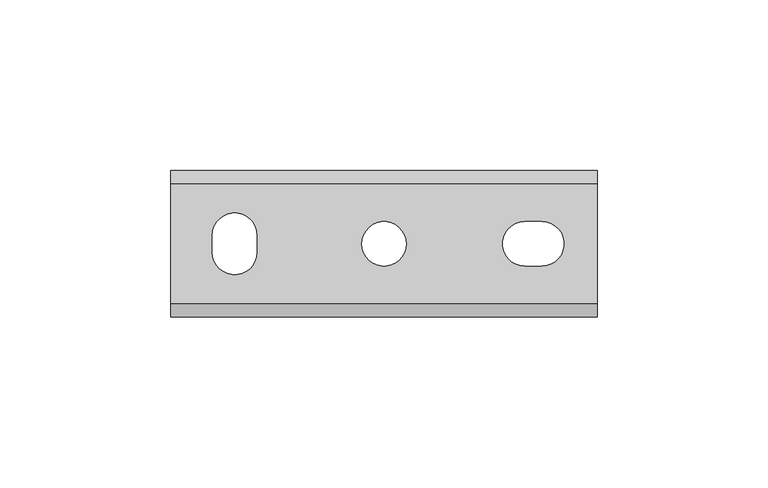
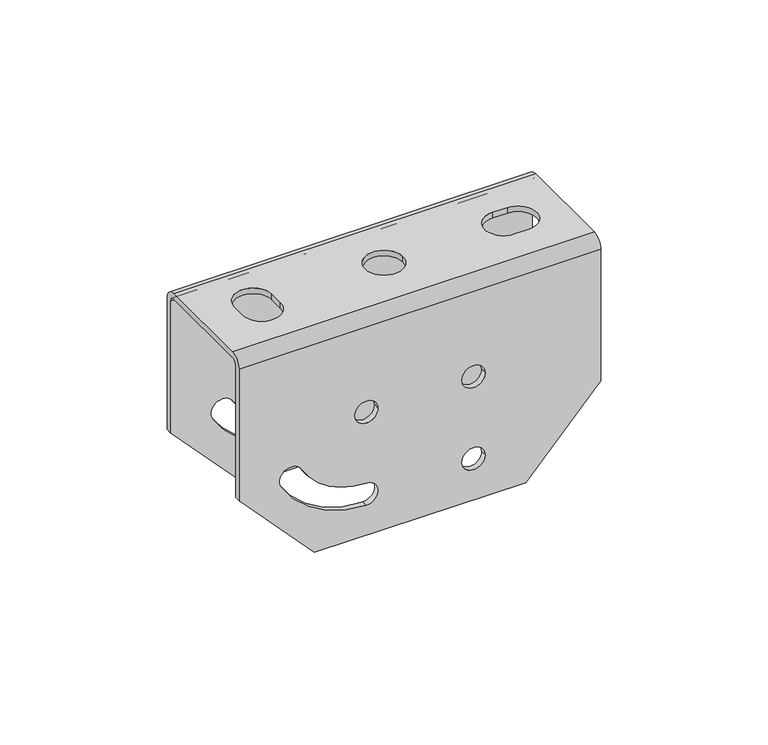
"""IFC4 building model written with IfcOpenShell, lengths in millimetres: proxy geometry, КМ Профиль_Универсальная потолочна скоба UPD : UPD HD."""

import ifcopenshell
import ifcopenshell.guid

model = None  # the IFC model being written
_history = None  # IfcOwnerHistory: only IFC2X3 demands one
_inside = {}  # id of a spatial element -> (the spatial element, [elements in it])
_under = {}  # id of a project, library or spatial element -> (it, [spatial elements below it])
_declared = {}  # id of a project -> (the project, [libraries it declares])
_typed = {}  # id of a type object -> (the type object, [elements of that type])
_made_of = {}  # id of a material, layer set ... -> (it, [elements and type objects made of it])


def new_model(schema):
    """Start an empty IFC model of exactly this schema.

    Asked for "IFC4X3", IfcOpenShell would pick the latest addendum, in which some entities
    have other attributes; the version numbers below select the first issue.
    IFC2X3 requires an IfcOwnerHistory on every rooted entity: one is made here for all.
    """
    global model, _history
    if schema == "IFC4X3":
        model = ifcopenshell.file(schema_version=(4, 3, 0, 0))
    else:
        model = ifcopenshell.file(schema=schema)
    _inside.clear()
    _under.clear()
    _declared.clear()
    _typed.clear()
    _made_of.clear()
    _history = None
    if model.schema == "IFC2X3":
        org = make("IfcOrganization", Name="unknown")
        user = make(
            "IfcPersonAndOrganization",
            ThePerson=make("IfcPerson", FamilyName="unknown"),
            TheOrganization=org,
        )
        app = make(
            "IfcApplication",
            ApplicationDeveloper=org,
            Version="unknown",
            ApplicationFullName="unknown",
            ApplicationIdentifier="unknown",
        )
        _history = make(
            "IfcOwnerHistory",
            OwningUser=user,
            OwningApplication=app,
            ChangeAction="ADDED",
            CreationDate=0,
        )
    return model


def make(cls, **values):
    """One entity of the class cls with the attributes given. An attribute that is None is left unset."""
    return model.create_entity(
        cls, **{name: value for name, value in values.items() if value is not None}
    )


def rooted(cls, **values):
    """An entity with a GlobalId (a new one), such as an element, a storey or a relation."""
    return make(cls, GlobalId=ifcopenshell.guid.new(), OwnerHistory=_history, **values)


def si_unit(unit_type, name, prefix=None):
    """IfcSIUnit, for example si_unit("LENGTHUNIT", "METRE", prefix="MILLI")."""
    return make("IfcSIUnit", UnitType=unit_type, Prefix=prefix, Name=name)


def assignment(units):
    """IfcUnitAssignment: the units of a project."""
    return None if units is None else make("IfcUnitAssignment", Units=units)


def point(xyz):
    """IfcCartesianPoint."""
    return None if xyz is None else make("IfcCartesianPoint", Coordinates=xyz)


def direction(xyz):
    """IfcDirection."""
    return None if xyz is None else make("IfcDirection", DirectionRatios=xyz)


def frame(location, z_axis=None, x_axis=None):
    """IfcAxis2Placement3D, a coordinate frame: its origin and axes. An axis left out is left unset."""
    return make(
        "IfcAxis2Placement3D",
        Location=point(location),
        Axis=direction(z_axis),
        RefDirection=direction(x_axis),
    )


def origin():
    """The frame at (0, 0, 0) with its axes left unset."""
    return frame((0.0, 0.0, 0.0))


def place(relative_to, where):
    """IfcLocalPlacement: puts the frame where relative to a parent placement (None: the world)."""
    return make(
        "IfcLocalPlacement", PlacementRelTo=relative_to, RelativePlacement=where
    )


def context(
    kind, dimensions, precision=None, world=None, true_north=None, identifier=None
):
    """IfcGeometricRepresentationContext, for example the 3D "Model" context."""
    return make(
        "IfcGeometricRepresentationContext",
        ContextIdentifier=identifier,
        ContextType=kind,
        CoordinateSpaceDimension=dimensions,
        Precision=precision,
        WorldCoordinateSystem=world,
        TrueNorth=true_north,
    )


def project(units=None, contexts=None):
    """IfcProject with its units and contexts."""
    return rooted(
        "IfcProject",
        Name="project",
        RepresentationContexts=contexts,
        UnitsInContext=assignment(units),
    )


def spatial(cls, under=None, at=None, **own):
    """A site, building, storey or space (cls), placed at a placement, below another one or the project."""
    s = rooted(cls, ObjectPlacement=at, **own)
    if under is not None:
        _under.setdefault(under.id(), (under, []))[1].append(s)
    return s


def polyline(points):
    """IfcPolyline through the points."""
    return make("IfcPolyline", Points=[point(p) for p in points])


def circle_curve(where, radius):
    """IfcCircle in the frame where."""
    return make("IfcCircle", Position=where, Radius=radius)


def shape(context_of_items, identifier, shape_type, items):
    """IfcShapeRepresentation: the items that make up one representation, for example the "Body"."""
    return make(
        "IfcShapeRepresentation",
        ContextOfItems=context_of_items,
        RepresentationIdentifier=identifier,
        RepresentationType=shape_type,
        Items=items,
    )


def source(mapping_origin, context_of_items, identifier, shape_type, items):
    """IfcRepresentationMap: a shape defined once, which mapped items show again and again."""
    return make(
        "IfcRepresentationMap",
        MappingOrigin=mapping_origin,
        MappedRepresentation=shape(context_of_items, identifier, shape_type, items),
    )


def transform(
    local_origin,
    x_axis=None,
    y_axis=None,
    z_axis=None,
    scale=None,
    scale2=None,
    scale3=None,
    uniform=True,
):
    """IfcCartesianTransformationOperator3D, or its non-uniform kind. x_axis, y_axis, z_axis: its Axis1, 2, 3."""
    if uniform:
        return make(
            "IfcCartesianTransformationOperator3D",
            Axis1=direction(x_axis),
            Axis2=direction(y_axis),
            LocalOrigin=point(local_origin),
            Scale=scale,
            Axis3=direction(z_axis),
        )
    return make(
        "IfcCartesianTransformationOperator3DnonUniform",
        Axis1=direction(x_axis),
        Axis2=direction(y_axis),
        LocalOrigin=point(local_origin),
        Scale=scale,
        Axis3=direction(z_axis),
        Scale2=scale2,
        Scale3=scale3,
    )


def mapped(mapping_source, mapping_target):
    """IfcMappedItem: shows the shape of a source again, moved by a transform."""
    return make(
        "IfcMappedItem", MappingSource=mapping_source, MappingTarget=mapping_target
    )


def made_of(thing, what):
    """Note that an element or type object is made of a material, layer set ...; save() writes the relation."""
    if what is not None:
        _made_of.setdefault(what.id(), (what, []))[1].append(thing)
    return thing


def element(
    cls,
    number,
    at=None,
    inside=None,
    cuts=None,
    type_object=None,
    material=None,
    context=None,
    identifier="Body",
    shape_type=None,
    held_by="IfcProductDefinitionShape",
    body=None,
    shapes=None,
    **own,
):
    """One element of the class cls, such as IfcWall. Its Tag is "e" and its number.

    at: its placement. inside: the storey or other place that contains it. cuts: it is an
    opening in that element (IfcRelVoidsElement). A single representation is given by context,
    identifier, shape_type and body (its items); several are given by shapes. held_by: the class
    of the entity that holds the representations. save() writes the other relations.
    """
    e = rooted(cls, Tag="e%d" % number, ObjectPlacement=at, **own)
    if body is not None:
        shapes = [shape(context, identifier, shape_type, body)]
    if shapes is not None:
        e.Representation = make(held_by, Representations=shapes)
    if inside is not None:
        _inside.setdefault(inside.id(), (inside, []))[1].append(e)
    if cuts is not None:
        rooted(
            "IfcRelVoidsElement", RelatingBuildingElement=cuts, RelatedOpeningElement=e
        )
    if type_object is not None:
        _typed.setdefault(type_object.id(), (type_object, []))[1].append(e)
    return made_of(e, material)


def aggregate(whole, parts):
    """IfcRelAggregates: a whole, such as a stair, and the parts it consists of."""
    return rooted("IfcRelAggregates", RelatingObject=whole, RelatedObjects=parts)


def save(model, path):
    """Write the relations noted so far, then the file.

    IfcRelAggregates (storeys below a building ...), IfcRelContainedInSpatialStructure (elements
    in a storey), IfcRelDefinesByType, IfcRelAssociatesMaterial and IfcRelDeclares: one each for
    every whole, place, type object, material and project.
    """
    for whole, parts in _under.values():
        aggregate(whole, parts)
    for where, things in _inside.values():
        rooted(
            "IfcRelContainedInSpatialStructure",
            RelatedElements=things,
            RelatingStructure=where,
        )
    for kind, things in _typed.values():
        rooted("IfcRelDefinesByType", RelatedObjects=things, RelatingType=kind)
    for what, things in _made_of.values():
        rooted("IfcRelAssociatesMaterial", RelatedObjects=things, RelatingMaterial=what)
    for by, libraries in _declared.values():
        rooted("IfcRelDeclares", RelatingContext=by, RelatedDefinitions=libraries)
    model.write(path)


def plane_surface(at):
    """IfcPlane: the flat surface through the origin of the frame at, square to its z axis."""
    return make("IfcPlane", Position=at)


def cylinder_surface(at, radius):
    """IfcCylindricalSurface: all points at the distance radius from the z axis of the frame at."""
    return make("IfcCylindricalSurface", Position=at, Radius=radius)


def revolved_surface(curve, axis_point, axis_direction):
    """IfcSurfaceOfRevolution: the curve turned about the line through axis_point along axis_direction."""
    return make(
        "IfcSurfaceOfRevolution",
        SweptCurve=make("IfcArbitraryOpenProfileDef", ProfileType="CURVE", Curve=curve),
        AxisPosition=make("IfcAxis1Placement", Location=point(axis_point), Axis=direction(axis_direction)),
    )


def advanced_brep(points, edges, surfaces, faces):
    """IfcAdvancedBrep: a solid bounded by faces that lie on surfaces and meet in shared edges.

    An edge is (start, end): straight between two places in points (the first is 0);
    or (start, end, curve); or (start, end, curve, False) where it runs against its curve.
    A face is (place in surfaces, loops), or (place, loops, False) where it looks against
    its surface's normal. A loop lists edges by number (the first is 1), with a minus sign
    where the edge is run from its end to its start. The first loop is the outer one.
    """
    corners = [point(p) for p in points]
    vertices = [make("IfcVertexPoint", VertexGeometry=c) for c in corners]
    made = []
    for start, end, *more in edges:
        made.append(
            make(
                "IfcEdgeCurve",
                EdgeStart=vertices[start],
                EdgeEnd=vertices[end],
                EdgeGeometry=more[0] if more else make("IfcPolyline", Points=[corners[start], corners[end]]),
                SameSense=more[1] if len(more) > 1 else True,
            )
        )
    hull = []
    for where, loops, *sense in faces:
        bounds = []
        for j, loop in enumerate(loops):
            ring = [make("IfcOrientedEdge", EdgeElement=made[abs(k) - 1], Orientation=k > 0) for k in loop]
            bounds.append(
                make(
                    "IfcFaceOuterBound" if j == 0 else "IfcFaceBound",
                    Bound=make("IfcEdgeLoop", EdgeList=ring),
                    Orientation=True,
                )
            )
        hull.append(make("IfcAdvancedFace", Bounds=bounds, FaceSurface=surfaces[where], SameSense=sense[0] if sense else True))
    return make("IfcAdvancedBrep", Outer=make("IfcClosedShell", CfsFaces=hull))


def generic_models_a440815e(model_context):
    return source(origin(), model_context, "Body", "AdvancedBrep", [
        advanced_brep(
        [(-62.5, -17.5, 0.0), (-62.5, 17.5, 0.0), (-62.5, 21.5, -4.0), (-62.5, 21.5, -52.0), (-62.5, 19.5, -52.0), (-62.5, 19.5, -4.0), (-62.5, 17.5, -2.0), (-62.5, -17.5, -2.0), (-62.5, -19.5, -4.0), (-62.5, -19.5, -52.0), (-62.5, -21.5, -52.0), (-62.5, -21.5, -4.0), (62.5, 17.5, 0.0), (62.5, -17.5, 0.0), (62.5, -21.5, -4.0), (62.5, -21.5, -52.0), (62.5, -19.5, -52.0), (62.5, -19.5, -4.0), (62.5, -17.5, -2.0), (62.5, 17.5, -2.0), (62.5, 19.5, -4.0), (62.5, 19.5, -52.0), (62.5, 21.5, -52.0), (62.5, 21.5, -4.0), (6.5, 0.0, 0.0), (-6.5, 0.0, 0.0), (-50.25, -2.5, 0.0), (-50.25, 2.5, 0.0), (-37.25, 2.5, 0.0), (-37.25, -2.5, 0.0), (41.25, 6.5, 0.0), (46.25, 6.5, 0.0), (46.25, -6.5, 0.0), (41.25, -6.5, 0.0), (36.5, -19.5, -80.0), (-36.5, -19.5, -80.0), (14.5, -19.5, -35.0), (22.5, -19.5, -35.0), (14.5, -19.5, -65.0), (22.5, -19.5, -65.0), (-22.5, -19.5, -35.0), (-14.5, -19.5, -35.0), (-18.5, -19.5, -69.0), (-18.5, -19.5, -61.0), (-41.0166605, -19.5, -48.0), (-47.9448637, -19.5, -52.0), (36.5, -21.5, -80.0), (-36.5, -21.5, -80.0), (22.5, -21.5, -35.0), (14.5, -21.5, -35.0), (22.5, -21.5, -65.0), (14.5, -21.5, -65.0), (-14.5, -21.5, -35.0), (-22.5, -21.5, -35.0), (-18.5, -21.5, -61.0), (-18.5, -21.5, -69.0), (-47.9448637, -21.5, -52.0), (-41.0166605, -21.5, -48.0), (-6.5, 0.0, -2.0), (6.5, 0.0, -2.0), (-50.25, 2.5, -2.0), (-50.25, -2.5, -2.0), (-37.25, -2.5, -2.0), (-37.25, 2.5, -2.0), (46.25, 6.5, -2.0), (41.25, 6.5, -2.0), (41.25, -6.5, -2.0), (46.25, -6.5, -2.0), (36.5, 21.5, -80.0), (-36.5, 21.5, -80.0), (14.5, 21.5, -35.0), (22.5, 21.5, -35.0), (14.5, 21.5, -65.0), (22.5, 21.5, -65.0), (-22.5, 21.5, -35.0), (-14.5, 21.5, -35.0), (-18.5, 21.5, -69.0), (-18.5, 21.5, -61.0), (-41.0166605, 21.5, -48.0), (-47.9448637, 21.5, -52.0), (36.5, 19.5, -80.0), (-36.5, 19.5, -80.0), (22.5, 19.5, -35.0), (14.5, 19.5, -35.0), (22.5, 19.5, -65.0), (14.5, 19.5, -65.0), (-14.5, 19.5, -35.0), (-22.5, 19.5, -35.0), (-18.5, 19.5, -61.0), (-18.5, 19.5, -69.0), (-47.9448637, 19.5, -52.0), (-41.0166605, 19.5, -48.0)],
        [
            (0, 1),
            (1, 2, circle_curve(frame((-62.5, 17.5, -4.0), z_axis=(-1.0, 0.0, 0.0), x_axis=(0.0, 1.0, 0.0)), 4.0)),
            (2, 3),
            (3, 4),
            (4, 5),
            (5, 6, circle_curve(frame((-62.5, 17.5, -4.0), z_axis=(1.0, 0.0, 0.0), x_axis=(0.0, 1.0, 0.0)), 2.0)),
            (6, 7),
            (7, 8, circle_curve(frame((-62.5, -17.5, -4.0), z_axis=(1.0, 0.0, 0.0), x_axis=(0.0, 1.0, 0.0)), 2.0)),
            (8, 9),
            (9, 10),
            (10, 11),
            (11, 0, circle_curve(frame((-62.5, -17.5, -4.0), z_axis=(-1.0, 0.0, 0.0), x_axis=(0.0, 1.0, 0.0)), 4.0)),
            (12, 13),
            (13, 14, circle_curve(frame((62.5, -17.5, -4.0), z_axis=(1.0, 0.0, 0.0), x_axis=(0.0, 1.0, 0.0)), 4.0)),
            (14, 15),
            (15, 16),
            (16, 17),
            (17, 18, circle_curve(frame((62.5, -17.5, -4.0), z_axis=(-1.0, 0.0, 0.0), x_axis=(0.0, 1.0, 0.0)), 2.0)),
            (18, 19),
            (19, 20, circle_curve(frame((62.5, 17.5, -4.0), z_axis=(-1.0, 0.0, 0.0), x_axis=(0.0, 1.0, 0.0)), 2.0)),
            (20, 21),
            (21, 22),
            (22, 23),
            (23, 12, circle_curve(frame((62.5, 17.5, -4.0), z_axis=(1.0, 0.0, 0.0), x_axis=(0.0, 1.0, 0.0)), 4.0)),
            (0, 13),
            (12, 1),
            (24, 25, circle_curve(frame((0.0, 0.0, 0.0), z_axis=(0.0, 0.0, -1.0), x_axis=(1.0, 0.0, 0.0)), 6.5)),
            (25, 24, circle_curve(frame((0.0, 0.0, 0.0), z_axis=(0.0, 0.0, -1.0), x_axis=(1.0, 0.0, 0.0)), 6.5)),
            (26, 27),
            (27, 28, circle_curve(frame((-43.75, 2.5, 0.0), z_axis=(0.0, 0.0, -1.0), x_axis=(0.0, 1.0, 0.0)), 6.5)),
            (28, 29),
            (29, 26, circle_curve(frame((-43.75, -2.5, 0.0), z_axis=(0.0, 0.0, -1.0), x_axis=(0.0, 1.0, 0.0)), 6.5)),
            (30, 31),
            (31, 32, circle_curve(frame((46.25, 0.0, 0.0), z_axis=(0.0, 0.0, -1.0), x_axis=(1.0, 0.0, 0.0)), 6.5)),
            (32, 33),
            (33, 30, circle_curve(frame((41.25, 0.0, 0.0), z_axis=(0.0, 0.0, -1.0), x_axis=(1.0, 0.0, 0.0)), 6.5)),
            (8, 17),
            (16, 34),
            (34, 35),
            (35, 9),
            (36, 37, circle_curve(frame((18.5, -19.5, -35.0), z_axis=(0.0, -1.0, 0.0), x_axis=(1.0, 0.0, 0.0)), 4.0)),
            (37, 36, circle_curve(frame((18.5, -19.5, -35.0), z_axis=(0.0, -1.0, 0.0), x_axis=(1.0, 0.0, 0.0)), 4.0)),
            (38, 39, circle_curve(frame((18.5, -19.5, -65.0), z_axis=(0.0, -1.0, 0.0), x_axis=(1.0, 0.0, 0.0)), 4.0)),
            (39, 38, circle_curve(frame((18.5, -19.5, -65.0), z_axis=(0.0, -1.0, 0.0), x_axis=(1.0, 0.0, 0.0)), 4.0)),
            (40, 41, circle_curve(frame((-18.5, -19.5, -35.0), z_axis=(0.0, -1.0, 0.0), x_axis=(1.0, 0.0, 0.0)), 4.0)),
            (41, 40, circle_curve(frame((-18.5, -19.5, -35.0), z_axis=(0.0, -1.0, 0.0), x_axis=(1.0, 0.0, 0.0)), 4.0)),
            (42, 43, circle_curve(frame((-18.5, -19.5, -65.0), z_axis=(0.0, -1.0, 0.0), x_axis=(1.0, 0.0, 0.0)), 4.0)),
            (43, 44, circle_curve(frame((-18.5, -19.5, -35.0), z_axis=(0.0, 1.0, 0.0), x_axis=(1.0, 0.0, 0.0)), 26.0)),
            (44, 45, circle_curve(frame((-44.4807621, -19.5, -50.0), z_axis=(0.0, -1.0, 0.0), x_axis=(1.0, 0.0, 0.0)), 4.0)),
            (45, 42, circle_curve(frame((-18.5, -19.5, -35.0), z_axis=(0.0, -1.0, 0.0), x_axis=(1.0, 0.0, 0.0)), 34.0)),
            (34, 46),
            (46, 47),
            (47, 35),
            (14, 11),
            (10, 47),
            (46, 15),
            (48, 49, circle_curve(frame((18.5, -21.5, -35.0), z_axis=(0.0, 1.0, 0.0), x_axis=(1.0, 0.0, 0.0)), 4.0)),
            (49, 48, circle_curve(frame((18.5, -21.5, -35.0), z_axis=(0.0, 1.0, 0.0), x_axis=(1.0, 0.0, 0.0)), 4.0)),
            (50, 51, circle_curve(frame((18.5, -21.5, -65.0), z_axis=(0.0, 1.0, 0.0), x_axis=(1.0, 0.0, 0.0)), 4.0)),
            (51, 50, circle_curve(frame((18.5, -21.5, -65.0), z_axis=(0.0, 1.0, 0.0), x_axis=(1.0, 0.0, 0.0)), 4.0)),
            (52, 53, circle_curve(frame((-18.5, -21.5, -35.0), z_axis=(0.0, 1.0, 0.0), x_axis=(1.0, 0.0, 0.0)), 4.0)),
            (53, 52, circle_curve(frame((-18.5, -21.5, -35.0), z_axis=(0.0, 1.0, 0.0), x_axis=(1.0, 0.0, 0.0)), 4.0)),
            (54, 55, circle_curve(frame((-18.5, -21.5, -65.0), z_axis=(0.0, 1.0, 0.0), x_axis=(1.0, 0.0, 0.0)), 4.0)),
            (55, 56, circle_curve(frame((-18.5, -21.5, -35.0), z_axis=(0.0, 1.0, 0.0), x_axis=(1.0, 0.0, 0.0)), 34.0)),
            (56, 57, circle_curve(frame((-44.4807621, -21.5, -50.0), z_axis=(0.0, 1.0, 0.0), x_axis=(1.0, 0.0, 0.0)), 4.0)),
            (57, 54, circle_curve(frame((-18.5, -21.5, -35.0), z_axis=(0.0, -1.0, 0.0), x_axis=(1.0, 0.0, 0.0)), 26.0)),
            (6, 19),
            (18, 7),
            (58, 59, circle_curve(frame((0.0, 0.0, -2.0), z_axis=(0.0, 0.0, 1.0), x_axis=(1.0, 0.0, 0.0)), 6.5)),
            (59, 58, circle_curve(frame((0.0, 0.0, -2.0), z_axis=(0.0, 0.0, 1.0), x_axis=(1.0, 0.0, 0.0)), 6.5)),
            (60, 61),
            (61, 62, circle_curve(frame((-43.75, -2.5, -2.0), z_axis=(0.0, 0.0, 1.0), x_axis=(0.0, 1.0, 0.0)), 6.5)),
            (62, 63),
            (63, 60, circle_curve(frame((-43.75, 2.5, -2.0), z_axis=(0.0, 0.0, 1.0), x_axis=(0.0, 1.0, 0.0)), 6.5)),
            (64, 65),
            (65, 66, circle_curve(frame((41.25, 0.0, -2.0), z_axis=(0.0, 0.0, 1.0), x_axis=(1.0, 0.0, 0.0)), 6.5)),
            (66, 67),
            (67, 64, circle_curve(frame((46.25, 0.0, -2.0), z_axis=(0.0, 0.0, 1.0), x_axis=(1.0, 0.0, 0.0)), 6.5)),
            (2, 23),
            (22, 68),
            (68, 69),
            (69, 3),
            (70, 71, circle_curve(frame((18.5, 21.5, -35.0), z_axis=(0.0, -1.0, 0.0), x_axis=(1.0, 0.0, 0.0)), 4.0)),
            (71, 70, circle_curve(frame((18.5, 21.5, -35.0), z_axis=(0.0, -1.0, 0.0), x_axis=(1.0, 0.0, 0.0)), 4.0)),
            (72, 73, circle_curve(frame((18.5, 21.5, -65.0), z_axis=(0.0, -1.0, 0.0), x_axis=(1.0, 0.0, 0.0)), 4.0)),
            (73, 72, circle_curve(frame((18.5, 21.5, -65.0), z_axis=(0.0, -1.0, 0.0), x_axis=(1.0, 0.0, 0.0)), 4.0)),
            (74, 75, circle_curve(frame((-18.5, 21.5, -35.0), z_axis=(0.0, -1.0, 0.0), x_axis=(1.0, 0.0, 0.0)), 4.0)),
            (75, 74, circle_curve(frame((-18.5, 21.5, -35.0), z_axis=(0.0, -1.0, 0.0), x_axis=(1.0, 0.0, 0.0)), 4.0)),
            (76, 77, circle_curve(frame((-18.5, 21.5, -65.0), z_axis=(0.0, -1.0, 0.0), x_axis=(1.0, 0.0, 0.0)), 4.0)),
            (77, 78, circle_curve(frame((-18.5, 21.5, -35.0), z_axis=(0.0, 1.0, 0.0), x_axis=(1.0, 0.0, 0.0)), 26.0)),
            (78, 79, circle_curve(frame((-44.4807621, 21.5, -50.0), z_axis=(0.0, -1.0, 0.0), x_axis=(1.0, 0.0, 0.0)), 4.0)),
            (79, 76, circle_curve(frame((-18.5, 21.5, -35.0), z_axis=(0.0, -1.0, 0.0), x_axis=(1.0, 0.0, 0.0)), 34.0)),
            (68, 80),
            (80, 81),
            (81, 69),
            (20, 5),
            (4, 81),
            (80, 21),
            (82, 83, circle_curve(frame((18.5, 19.5, -35.0), z_axis=(0.0, 1.0, 0.0), x_axis=(1.0, 0.0, 0.0)), 4.0)),
            (83, 82, circle_curve(frame((18.5, 19.5, -35.0), z_axis=(0.0, 1.0, 0.0), x_axis=(1.0, 0.0, 0.0)), 4.0)),
            (84, 85, circle_curve(frame((18.5, 19.5, -65.0), z_axis=(0.0, 1.0, 0.0), x_axis=(1.0, 0.0, 0.0)), 4.0)),
            (85, 84, circle_curve(frame((18.5, 19.5, -65.0), z_axis=(0.0, 1.0, 0.0), x_axis=(1.0, 0.0, 0.0)), 4.0)),
            (86, 87, circle_curve(frame((-18.5, 19.5, -35.0), z_axis=(0.0, 1.0, 0.0), x_axis=(1.0, 0.0, 0.0)), 4.0)),
            (87, 86, circle_curve(frame((-18.5, 19.5, -35.0), z_axis=(0.0, 1.0, 0.0), x_axis=(1.0, 0.0, 0.0)), 4.0)),
            (88, 89, circle_curve(frame((-18.5, 19.5, -65.0), z_axis=(0.0, 1.0, 0.0), x_axis=(1.0, 0.0, 0.0)), 4.0)),
            (89, 90, circle_curve(frame((-18.5, 19.5, -35.0), z_axis=(0.0, 1.0, 0.0), x_axis=(1.0, 0.0, 0.0)), 34.0)),
            (90, 91, circle_curve(frame((-44.4807621, 19.5, -50.0), z_axis=(0.0, 1.0, 0.0), x_axis=(1.0, 0.0, 0.0)), 4.0)),
            (91, 88, circle_curve(frame((-18.5, 19.5, -35.0), z_axis=(0.0, -1.0, 0.0), x_axis=(1.0, 0.0, 0.0)), 26.0)),
            (24, 59),
            (58, 25),
            (26, 61),
            (60, 27),
            (29, 62),
            (28, 63),
            (30, 65),
            (64, 31),
            (33, 66),
            (32, 67),
            (36, 49),
            (48, 37),
            (70, 83),
            (82, 71),
            (38, 51),
            (50, 39),
            (72, 85),
            (84, 73),
            (40, 53),
            (52, 41),
            (74, 87),
            (86, 75),
            (42, 55),
            (54, 43),
            (76, 89),
            (88, 77),
            (57, 44),
            (91, 78),
            (56, 45),
            (90, 79),
        ],
        [
            plane_surface(frame((-62.5, 0.0, 0.0), z_axis=(-1.0, 0.0, 0.0), x_axis=(0.0, 0.0, 1.0))),
            plane_surface(frame((62.5, 0.0, 0.0), z_axis=(1.0, 0.0, 0.0), x_axis=(0.0, 0.0, 1.0))),
            plane_surface(frame((-62.5, -17.5, 0.0), z_axis=(0.0, 0.0, 1.0), x_axis=(1.0, 0.0, 0.0))),
            plane_surface(frame((-62.5, -19.5, -4.0), z_axis=(0.0, 1.0, 0.0), x_axis=(1.0, 0.0, 0.0))),
            plane_surface(frame((-62.5, -19.5, -80.0), z_axis=(0.0, 0.0, -1.0), x_axis=(1.0, 0.0, 0.0))),
            plane_surface(frame((-62.5, -21.5, -80.0), z_axis=(0.0, -1.0, 0.0), x_axis=(1.0, 0.0, 0.0))),
            plane_surface(frame((-62.5, 17.5, -2.0), z_axis=(0.0, 0.0, -1.0), x_axis=(1.0, 0.0, 0.0))),
            plane_surface(frame((-62.5, 21.5, -4.0), z_axis=(0.0, 1.0, 0.0), x_axis=(1.0, 0.0, 0.0))),
            plane_surface(frame((-62.5, 21.5, -80.0), z_axis=(0.0, 0.0, -1.0), x_axis=(1.0, 0.0, 0.0))),
            plane_surface(frame((-62.5, 19.5, -80.0), z_axis=(0.0, -1.0, 0.0), x_axis=(1.0, 0.0, 0.0))),
            revolved_surface(polyline([(62.5, 19.5, -4.0), (-62.5, 19.5, -4.0)]), (-62.5, 17.5, -4.0), (1.0, 0.0, 0.0)),
            revolved_surface(polyline([(62.5, -15.5, -4.0), (-62.5, -15.5, -4.0)]), (-62.5, -17.5, -4.0), (1.0, 0.0, 0.0)),
            cylinder_surface(frame((-62.5, -17.5, -4.0), z_axis=(-1.0, 0.0, 0.0), x_axis=(0.0, 1.0, 0.0)), 4.0),
            cylinder_surface(frame((-62.5, 17.5, -4.0), z_axis=(-1.0, 0.0, 0.0), x_axis=(0.0, 1.0, 0.0)), 4.0),
            revolved_surface(polyline([(6.5, 0.0, 0.0), (6.5, 0.0, -2.0)]), (0.0, 0.0, -2.0), (0.0, 0.0, 1.0)),
            plane_surface(frame((-36.5, -21.5, -80.0), z_axis=(-0.7327934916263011, 0.0, -0.6804510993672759), x_axis=(0.0, 1.0, 0.0))),
            plane_surface(frame((62.5, -21.5, -52.0), z_axis=(0.7327934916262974, 0.0, -0.6804510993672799), x_axis=(0.0, 1.0, 0.0))),
            plane_surface(frame((-50.25, 2.5, 0.0), z_axis=(1.0, 0.0, 0.0), x_axis=(0.0, 0.0, -1.0))),
            revolved_surface(polyline([(-43.75, 4.0, 0.0), (-43.75, 4.0, -2.0)]), (-43.75, -2.5, -2.0), (0.0, 0.0, 1.0)),
            plane_surface(frame((-37.25, -2.5, 0.0), z_axis=(-1.0, 0.0, 0.0), x_axis=(0.0, 0.0, -1.0))),
            revolved_surface(polyline([(-43.75, 9.0, 0.0), (-43.75, 9.0, -2.0)]), (-43.75, 2.5, -2.0), (0.0, 0.0, 1.0)),
            plane_surface(frame((46.25, 6.5, 0.0), z_axis=(0.0, -1.0, 0.0), x_axis=(0.0, 0.0, -1.0))),
            revolved_surface(polyline([(47.75, 0.0, 0.0), (47.75, 0.0, -2.0)]), (41.25, 0.0, -2.0), (0.0, 0.0, 1.0)),
            plane_surface(frame((41.25, -6.5, 0.0), z_axis=(0.0, 1.0, 0.0), x_axis=(0.0, 0.0, -1.0))),
            revolved_surface(polyline([(52.75, 0.0, 0.0), (52.75, 0.0, -2.0)]), (46.25, 0.0, -2.0), (0.0, 0.0, 1.0)),
            revolved_surface(polyline([(22.5, -21.5, -35.0), (22.5, -19.5, -35.0)]), (18.5, 21.5, -35.0), (0.0, -1.0, 0.0)),
            revolved_surface(polyline([(22.5, 19.5, -35.0), (22.5, 21.5, -35.0)]), (18.5, 21.5, -35.0), (0.0, -1.0, 0.0)),
            revolved_surface(polyline([(22.5, -21.5, -65.0), (22.5, -19.5, -65.0)]), (18.5, 21.5, -65.0), (0.0, -1.0, 0.0)),
            revolved_surface(polyline([(22.5, 19.5, -65.0), (22.5, 21.5, -65.0)]), (18.5, 21.5, -65.0), (0.0, -1.0, 0.0)),
            revolved_surface(polyline([(-14.5, -21.5, -35.0), (-14.5, -19.5, -35.0)]), (-18.5, 21.5, -35.0), (0.0, -1.0, 0.0)),
            revolved_surface(polyline([(-14.5, 19.5, -35.0), (-14.5, 21.5, -35.0)]), (-18.5, 21.5, -35.0), (0.0, -1.0, 0.0)),
            revolved_surface(polyline([(-14.5, -21.5, -65.0), (-14.5, -19.5, -65.0)]), (-18.5, 0.0, -65.0), (0.0, -1.0, 0.0)),
            revolved_surface(polyline([(-14.5, 19.5, -65.0), (-14.5, 21.5, -65.0)]), (-18.5, 0.0, -65.0), (0.0, -1.0, 0.0)),
            cylinder_surface(frame((-18.5, 0.0, -35.0), z_axis=(0.0, 1.0, 0.0), x_axis=(1.0, 0.0, 0.0)), 26.0),
            revolved_surface(polyline([(-40.4807621, -21.5, -50.0), (-40.4807621, -19.5, -50.0)]), (-44.4807621, 0.0, -50.0), (0.0, -1.0, 0.0)),
            revolved_surface(polyline([(-40.4807621, 19.5, -50.0), (-40.4807621, 21.5, -50.0)]), (-44.4807621, 0.0, -50.0), (0.0, -1.0, 0.0)),
            revolved_surface(polyline([(15.5, -21.5, -35.0), (15.5, -19.5, -35.0)]), (-18.5, 0.0, -35.0), (0.0, -1.0, 0.0)),
            revolved_surface(polyline([(15.5, 19.5, -35.0), (15.5, 21.5, -35.0)]), (-18.5, 0.0, -35.0), (0.0, -1.0, 0.0)),
        ],
        [
            (0, [[1, 2, 3, 4, 5, 6, 7, 8, 9, 10, 11, 12]]),
            (1, [[13, 14, 15, 16, 17, 18, 19, 20, 21, 22, 23, 24]]),
            (2, [[-1, 25, -13, 26], [27, 28], [29, 30, 31, 32], [33, 34, 35, 36]]),
            (3, [[37, -17, 38, 39, 40, -9], [41, 42], [43, 44], [45, 46], [47, 48, 49, 50]]),
            (4, [[-39, 51, 52, 53]]),
            (5, [[54, -11, 55, -52, 56, -15], [57, 58], [59, 60], [61, 62], [63, 64, 65, 66]]),
            (6, [[-7, 67, -19, 68], [69, 70], [71, 72, 73, 74], [75, 76, 77, 78]]),
            (7, [[79, -23, 80, 81, 82, -3], [83, 84], [85, 86], [87, 88], [89, 90, 91, 92]]),
            (8, [[-81, 93, 94, 95]]),
            (9, [[96, -5, 97, -94, 98, -21], [99, 100], [101, 102], [103, 104], [105, 106, 107, 108]]),
            (10, [[-6, -96, -20, -67]]),
            (11, [[-8, -68, -18, -37]]),
            (12, [[-12, -54, -14, -25]]),
            (13, [[-2, -26, -24, -79]]),
            (14, [[-27, 109, -69, 110]]),
            (14, [[-28, -110, -70, -109]]),
            (15, [[-4, -82, -95, -97]]),
            (15, [[-10, -40, -53, -55]]),
            (16, [[-16, -56, -51, -38]]),
            (16, [[-22, -98, -93, -80]]),
            (17, [[-29, 111, -71, 112]]),
            (18, [[-32, 113, -72, -111]]),
            (19, [[-31, 114, -73, -113]]),
            (20, [[-30, -112, -74, -114]]),
            (21, [[-33, 115, -75, 116]]),
            (22, [[-36, 117, -76, -115]]),
            (23, [[-35, 118, -77, -117]]),
            (24, [[-34, -116, -78, -118]]),
            (25, [[-41, 119, -57, 120]]),
            (26, [[-83, 121, -99, 122]]),
            (25, [[-42, -120, -58, -119]]),
            (26, [[-84, -122, -100, -121]]),
            (27, [[-43, 123, -59, 124]]),
            (28, [[-85, 125, -101, 126]]),
            (27, [[-44, -124, -60, -123]]),
            (28, [[-86, -126, -102, -125]]),
            (29, [[-45, 127, -61, 128]]),
            (30, [[-87, 129, -103, 130]]),
            (29, [[-46, -128, -62, -127]]),
            (30, [[-88, -130, -104, -129]]),
            (31, [[131, -63, 132, -47]]),
            (32, [[133, -105, 134, -89]]),
            (33, [[-132, -66, 135, -48]]),
            (33, [[-134, -108, 136, -90]]),
            (34, [[-135, -65, 137, -49]]),
            (35, [[-136, -107, 138, -91]]),
            (36, [[-131, -50, -137, -64]]),
            (37, [[-133, -92, -138, -106]]),
        ],
    ),
    ])


if __name__ == "__main__":
    model = new_model("IFC4")
    model_context = context("Model", 3, world=origin())
    ifc_project = project(units=[si_unit("LENGTHUNIT", "METRE", prefix="MILLI")], contexts=[model_context])
    site = spatial("IfcSite", under=ifc_project)
    building = spatial("IfcBuilding", under=site)
    placement = place(None, origin())
    generic_models_shape = generic_models_a440815e(model_context)
    element("IfcBuildingElementProxy", 1, Name="КМ Профиль_Универсальная потолочна скоба UPD : UPD HD", ObjectType="КМ Профиль_Универсальная потолочна скоба UPD : UPD HD", at=placement, inside=building, context=model_context, shape_type="MappedRepresentation", body=[
        mapped(generic_models_shape, transform((0.0, 0.0, 0.0), x_axis=(1.0, 0.0, 0.0), y_axis=(0.0, 1.0, 0.0), z_axis=(0.0, 0.0, 1.0))),
    ])
    save(model, "model.ifc")
